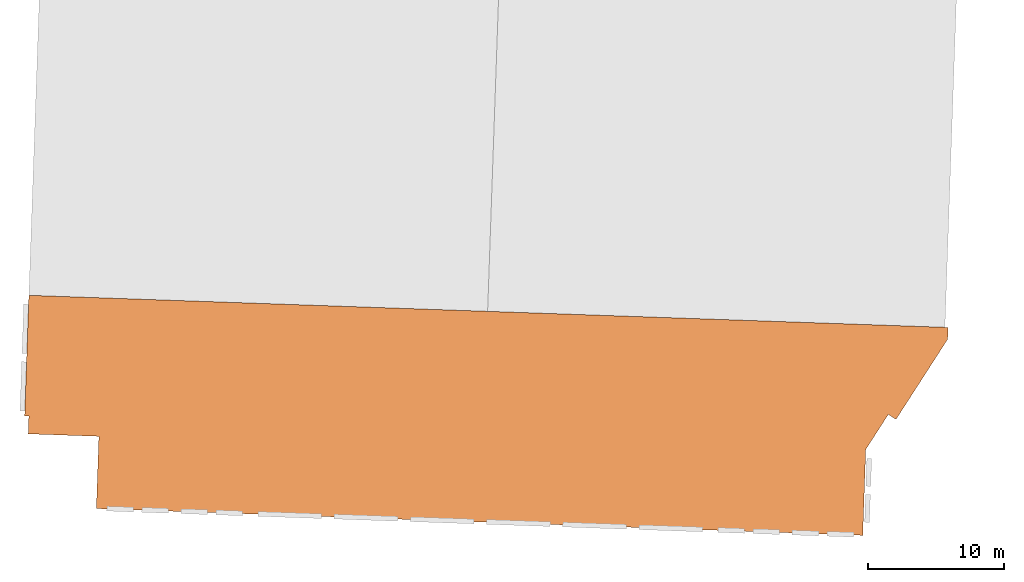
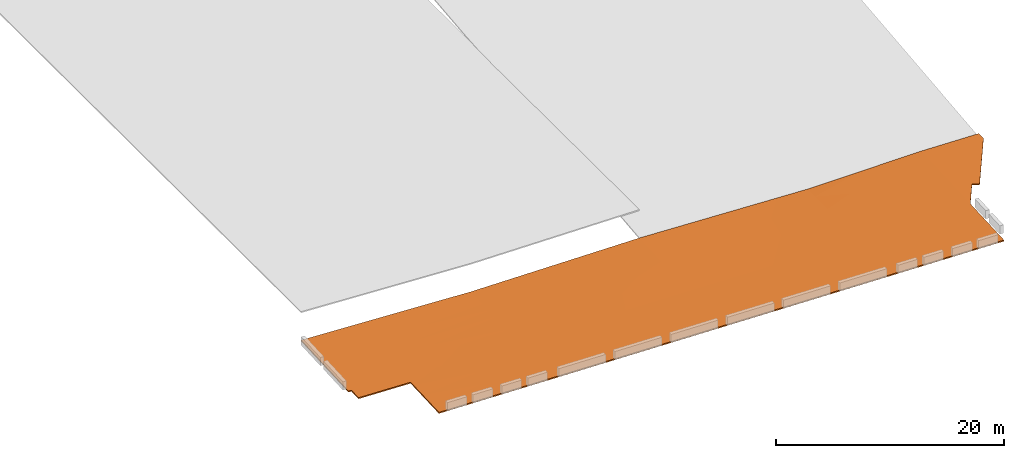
# One storey, part 3 of 4: 1 proxy.
"""IFC2X3 building model written with IfcOpenShell, lengths in feet."""

from ifc_helpers import new_model, entity, si_unit, converted_unit, derived_unit, direction, frame, origin, place, context, subcontext, project, spatial, faceted_brep, source, transform, mapped, material, type_object, type_shapes, element, save


model = new_model("IFC2X3")

# Units and contexts
model_context = context("Model", 3, precision=0.0001, world=origin(), true_north=direction((0.999390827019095, 0.0348994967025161)))
body_context = subcontext(model_context, "Body", "Model", "MODEL_VIEW")
ifc_project = project(units=[converted_unit("LENGTHUNIT", "FOOT", entity("IfcRatioMeasure", 0.3048), si_unit("LENGTHUNIT", "METRE"), dimensions=[1, 0, 0, 0, 0, 0, 0]), converted_unit("AREAUNIT", "SQUARE FOOT", entity("IfcRatioMeasure", 0.09290304), si_unit("AREAUNIT", "SQUARE_METRE"), dimensions=[2, 0, 0, 0, 0, 0, 0]), converted_unit("VOLUMEUNIT", "CUBIC FOOT", entity("IfcRatioMeasure", 0.028316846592), si_unit("VOLUMEUNIT", "CUBIC_METRE"), dimensions=[3, 0, 0, 0, 0, 0, 0]), converted_unit("PLANEANGLEUNIT", "DEGREE", entity("IfcRatioMeasure", 0.0174532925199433), si_unit("PLANEANGLEUNIT", "RADIAN"), dimensions=[0, 0, 0, 0, 0, 0, 0]), si_unit("MASSUNIT", "GRAM", prefix="KILO"), si_unit("TIMEUNIT", "SECOND"), si_unit("FREQUENCYUNIT", "HERTZ"), si_unit("THERMODYNAMICTEMPERATUREUNIT", "DEGREE_CELSIUS"), derived_unit("THERMALTRANSMITTANCEUNIT", [(si_unit("MASSUNIT", "GRAM", prefix="KILO"), 1), (si_unit("THERMODYNAMICTEMPERATUREUNIT", "KELVIN"), -1), (si_unit("TIMEUNIT", "SECOND"), -3)]), derived_unit("VOLUMETRICFLOWRATEUNIT", [(si_unit("LENGTHUNIT", "METRE"), 3), (si_unit("TIMEUNIT", "SECOND"), -1)]), si_unit("ELECTRICCURRENTUNIT", "AMPERE"), si_unit("ELECTRICVOLTAGEUNIT", "VOLT"), si_unit("POWERUNIT", "WATT"), si_unit("FORCEUNIT", "NEWTON"), si_unit("ILLUMINANCEUNIT", "LUX"), si_unit("LUMINOUSFLUXUNIT", "LUMEN"), si_unit("LUMINOUSINTENSITYUNIT", "CANDELA"), derived_unit("USERDEFINED", [(si_unit("MASSUNIT", "GRAM", prefix="KILO"), -1), (si_unit("LENGTHUNIT", "METRE"), -2), (si_unit("TIMEUNIT", "SECOND"), 3), (si_unit("LUMINOUSFLUXUNIT", "LUMEN"), 1)]), derived_unit("LINEARVELOCITYUNIT", [(si_unit("LENGTHUNIT", "METRE"), 1), (si_unit("TIMEUNIT", "SECOND"), -1)]), si_unit("PRESSUREUNIT", "PASCAL"), derived_unit("USERDEFINED", [(si_unit("LENGTHUNIT", "METRE"), -2), (si_unit("MASSUNIT", "GRAM", prefix="KILO"), 1), (si_unit("TIMEUNIT", "SECOND"), -2)])], contexts=[model_context])

# Site, building, storey
site_placement = place(None, frame((892.518771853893, 322.38689265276, 0.00393700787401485), z_axis=(0.0, 0.0, 1.0), x_axis=(0.0348994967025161, 0.999390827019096, 0.0)))
site = spatial("IfcSite", under=ifc_project, at=site_placement, Name="Default", CompositionType="ELEMENT")
building_placement = place(site_placement, origin())
building = spatial("IfcBuilding", under=site, at=building_placement, CompositionType="ELEMENT")
storey_placement = place(building_placement, frame((0.0, 0.0, 577.0)))
storey = spatial("IfcBuildingStorey", under=building, at=storey_placement, Name="Existing Garage - 3rd Level", CompositionType="ELEMENT", Elevation=577.0)

# Proxy
ifc_material = material(Name="Conc Slab")
building_element_proxy_type = type_object("IfcBuildingElementProxyType", Name="URMC Exist Garage A1-G4 1st Floor", PredefinedType="NOTDEFINED", material=ifc_material)
shared_shape = source(origin(), body_context, "Body", "Brep", [
    faceted_brep([(-20.0, -55.0, -0.41666666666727), (-10.0, -55.0, -0.651666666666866), (-5.0, -55.0, -0.769166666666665), (0.0, -55.0, -0.886666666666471), (7.5000000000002, -55.0, -1.06166666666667), (15.0, -55.0, -1.23666666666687), (22.1905010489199, -55.0, -1.40444502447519), (26.09525052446, -55.0, -1.49555584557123), (30.0, -55.0, -1.58666666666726), (30.0, -55.0, -1.1700000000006), (22.8094989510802, -55.0, -1.00222164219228), (18.9047494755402, -55.0, -0.911110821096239), (15.0, -55.0, -0.8200000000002), (7.5000000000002, -55.0, -0.645000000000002), (0.0, -55.0, -0.469999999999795), (-10.0, -55.0, -0.235000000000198), (-13.9877755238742, -55.0, -0.141287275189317), (-20.0, -55.0, 0.0), (-20.6666666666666, -55.0, 0.0), (-20.6666666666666, -55.0, -0.416666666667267), (30.0, 0.333333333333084, -0.416666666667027), (22.8094991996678, 0.333333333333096, -0.416666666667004), (18.904749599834, 0.333333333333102, -0.416666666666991), (15.0, 0.333333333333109, -0.416666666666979), (8.80986514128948, 0.333333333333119, -0.416666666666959), (4.90493257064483, 0.333333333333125, -0.416666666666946), (1.0, 0.333333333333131, -0.416666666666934), (1.0, 0.333333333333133, 0.0), (4.90493259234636, 0.333333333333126, 0.0), (8.80986518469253, 0.33333333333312, 0.0), (15.0, 0.33333333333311, 0.0), (22.1905008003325, 0.333333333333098, 0.0), (26.0952504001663, 0.333333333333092, 0.0), (30.0, 0.333333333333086, 0.0), (-20.6666666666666, -17.6666666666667, 0.0), (-20.6666666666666, -17.6666666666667, -0.416666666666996), (-20.0, -17.6666666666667, -0.416666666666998), (-20.0, -34.3004878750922, -0.416666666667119), (-12.5740740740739, -17.6666666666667, -0.473434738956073), (-10.7175925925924, -17.6666666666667, -0.487626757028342), (-8.86111111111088, -17.6666666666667, -0.501818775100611), (-11.6458347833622, -36.5226943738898, -0.547431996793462), (-16.2870370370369, -17.6666666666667, -0.445050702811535), (-14.4305555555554, -17.6666666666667, -0.459242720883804), (-3.29166666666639, -17.6666666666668, -0.544394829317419), (0.0, -14.250000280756, -0.540537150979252), (0.0, -15.0715290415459, -0.547515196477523), (0.0, -27.8333333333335, -0.6559136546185), (-3.29166666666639, -13.888888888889, -0.517587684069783), (-3.29166666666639, -12.0, -0.504184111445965), (-3.29166666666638, -10.1111111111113, -0.490780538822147), (-3.29166666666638, -8.22222222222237, -0.477376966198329), (-3.29166666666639, -15.7777777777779, -0.530991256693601), (-5.14814814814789, -17.6666666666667, -0.530202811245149), (-5.59903228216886, -34.4748037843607, -0.629555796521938), (-7.00462962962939, -17.6666666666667, -0.51601079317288), (-18.1435185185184, -17.6666666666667, -0.430858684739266), (0.0, -29.476391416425, -0.669869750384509), (-3.29166666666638, -4.44444444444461, -0.450569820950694), (-3.29166666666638, -2.55555555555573, -0.437166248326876), (-3.29166666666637, -0.666666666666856, -0.423762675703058), (-2.92592592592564, -0.666666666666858, -0.423918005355), (-2.56018518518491, -0.666666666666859, -0.424073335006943), (-2.19444444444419, -0.66666666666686, -0.424228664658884), (-1.82870370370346, -0.666666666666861, -0.424383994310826), (-1.46296296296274, -0.666666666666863, -0.424539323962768), (-1.09722222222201, -0.666666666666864, -0.42469465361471), (-0.731481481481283, -0.666666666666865, -0.424849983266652), (-3.29166666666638, -6.33333333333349, -0.463973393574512), (-0.365740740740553, -0.666666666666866, -0.425005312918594), (0.0, -0.666666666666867, -0.425160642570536), (-0.365740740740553, -0.666666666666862, -0.00833864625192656), (-0.731481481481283, -0.666666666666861, -0.00818331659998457), (0.0, -14.2500000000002, -0.12387048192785), (0.0, -0.666666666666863, -0.00849397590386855), (-3.29166666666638, -8.22222222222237, -0.0607102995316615), (-3.29166666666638, -6.33333333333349, -0.0473067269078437), (-1.09722222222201, -0.66666666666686, -0.00802798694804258), (-1.46296296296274, -0.666666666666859, -0.00787265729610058), (-1.82870370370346, -0.666666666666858, -0.0077173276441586), (-2.19444444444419, -0.666666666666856, -0.00756199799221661), (-2.56018518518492, -0.666666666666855, -0.00740666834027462), (-2.92592592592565, -0.666666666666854, -0.00725133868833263), (-3.29166666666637, -0.666666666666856, -0.00709600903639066), (-3.29166666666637, -2.55555555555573, -0.0204995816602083), (-3.29166666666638, -4.44444444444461, -0.033903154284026), (-13.9378433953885, -34.3833515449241, -0.0893812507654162), (-20.0, -34.3004875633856, 0.0), (-12.5740740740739, -17.6666666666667, -0.0567680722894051), (-14.4305555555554, -17.6666666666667, -0.042576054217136), (-16.2870370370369, -17.6666666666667, -0.0283840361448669), (-10.7175925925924, -17.6666666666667, -0.0709600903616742), (-3.29166666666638, -10.1111111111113, -0.0741138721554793), (-3.29166666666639, -12.0, -0.0875174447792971), (-3.29166666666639, -13.888888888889, -0.100921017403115), (-3.29166666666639, -15.7777777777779, -0.114324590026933), (-3.2916666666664, -17.6666666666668, -0.127728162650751), (-7.93286850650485, -36.6830543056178, -0.189705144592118), (0.0, -29.4763908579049, -0.253203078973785), (0.0, -27.8333333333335, -0.239246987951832), (-5.14814814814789, -17.6666666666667, -0.113536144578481), (0.0, -15.0715287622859, -0.130848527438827), (-7.00462962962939, -17.6666666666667, -0.0993441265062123), (-8.86111111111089, -17.6666666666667, -0.0851521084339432), (-18.1435185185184, -17.6666666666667, -0.0141920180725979), (-20.0, -17.6666666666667, 0.0), (0.250000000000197, -0.666666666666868, -0.00859939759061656), (0.500000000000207, -0.666666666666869, -0.0087048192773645), (0.750000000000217, -0.66666666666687, -0.00881024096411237), (1.0, -0.66666666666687, -0.00891566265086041), (1.0, -0.66666666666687, -0.425582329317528), (0.750000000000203, -0.66666666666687, -0.42547690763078), (0.500000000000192, -0.666666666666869, -0.425371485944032), (0.250000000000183, -0.666666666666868, -0.425266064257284), (1.0, -0.166666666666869, -0.421124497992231), (1.0, -0.41666666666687, -0.42335341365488), (1.0, -0.416666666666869, -0.00668674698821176), (1.0, -0.166666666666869, -0.0044578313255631), (1.0, 0.0833333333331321, -0.00222891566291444), (1.0, 0.0833333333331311, -0.418895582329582), (11.1962408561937, -15.6577053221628, -0.627992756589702), (10.7739407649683, -31.7992304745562, -0.83558545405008), (15.0, -27.3333333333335, -0.826666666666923), (15.0, -40.5958125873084, -1.02320702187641), (6.85739956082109, -24.4344512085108, -0.698664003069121), (7.21404979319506, -39.7071127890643, -0.878575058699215), (15.0, -26.1916251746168, -0.809747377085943), (20.251104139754, -19.1054514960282, -0.747779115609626), (25.1652703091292, -15.8962002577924, -0.726745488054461), (30.0, -14.0708535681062, -0.721237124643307), (30.0, -28.4750404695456, -1.02580758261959), (24.1428761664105, -33.9154324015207, -1.0562523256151), (19.0029258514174, -39.2111456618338, -1.06943757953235), (30.0, -26.1916251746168, -0.560859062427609), (30.0, -40.5958125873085, -0.865429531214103), (24.7488958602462, -19.1054514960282, -0.367981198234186), (19.834729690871, -15.8962002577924, -0.273597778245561), (15.0, -14.0708535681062, -0.213459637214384), (15.0, -27.3333333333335, -0.410000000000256), (15.0, -28.4750404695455, -0.426919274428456), (20.8571238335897, -33.9154324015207, -0.592132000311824), (25.9970741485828, -39.2111456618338, -0.769401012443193), (7.21404852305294, -39.7071122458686, -0.461908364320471), (6.85739830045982, -24.4344495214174, -0.281997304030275), (11.1962404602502, -15.6577081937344, -0.211326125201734), (10.773940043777, -31.7992331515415, -0.418918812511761)], [[[0, 1, 2, 3, 4, 5, 6, 7, 8, 9, 10, 11, 12, 13, 14, 15, 16, 17, 18, 19]], [[20, 21, 22, 23, 24, 25, 26, 27, 28, 29, 30, 31, 32, 33]], [[18, 34, 35, 19]], [[19, 35, 36, 37, 0]], [[38, 39, 40, 41, 42, 43]], [[44, 45, 46, 47]], [[48, 49, 50, 51, 45, 44, 52]], [[53, 44, 54, 40, 55]], [[0, 37, 41]], [[37, 36, 56, 42]], [[41, 54, 1]], [[1, 54, 3, 2]], [[54, 47, 57, 3]], [[41, 37, 42]], [[0, 41, 1]], [[40, 54, 41]], [[44, 47, 54]], [[58, 59, 60, 61, 62, 63, 64, 65, 66, 67, 51, 68]], [[69, 70, 45, 67]], [[67, 45, 51]], [[71, 72, 73, 74]], [[75, 73, 72]], [[76, 75, 72, 77, 78, 79, 80, 81, 82, 83, 84, 85]], [[16, 86, 87]], [[88, 89, 90, 86, 91]], [[92, 93, 94, 95, 96, 73, 75]], [[97, 14, 98, 99]], [[86, 90, 87]], [[100, 99, 101, 73, 96]], [[100, 102, 103, 91, 97]], [[100, 97, 99]], [[86, 97, 91]], [[104, 105, 87, 90]], [[87, 17, 16]], [[86, 15, 97]], [[15, 86, 16]], [[14, 97, 15]], [[18, 17, 87, 105, 34]], [[93, 92, 75, 76, 85, 84, 83, 60, 59, 58, 68, 51, 50, 49, 48, 52, 44, 96, 95, 94]], [[62, 61, 60, 83, 82, 81, 80, 79, 78, 77, 72, 71, 74, 106, 107, 108, 109, 110, 111, 112, 113, 70, 69, 67, 66, 65, 64, 63]], [[114, 115, 110, 109, 116, 117, 118, 27, 26, 119]], [[36, 35, 34, 105, 104, 90, 89, 88, 91, 103, 102, 100, 96, 44, 53, 55, 40, 39, 38, 43, 42, 56]], [[23, 120, 24]], [[121, 122, 123, 5]], [[4, 121, 5]], [[110, 46, 45, 70, 113, 112, 111]], [[24, 120, 124]], [[110, 25, 46]], [[124, 46, 25]], [[125, 124, 121]], [[120, 23, 126, 122]], [[119, 26, 25, 110, 115, 114]], [[124, 25, 24]], [[57, 124, 125]], [[124, 57, 47, 46]], [[125, 3, 57]], [[121, 120, 122]], [[121, 124, 120]], [[121, 4, 125]], [[125, 4, 3]], [[127, 23, 22, 21]], [[128, 20, 129, 130]], [[6, 131, 7]], [[6, 132, 131]], [[132, 5, 123, 122, 126]], [[127, 128, 131]], [[130, 7, 131]], [[130, 8, 7]], [[131, 132, 127]], [[5, 132, 6]], [[127, 132, 126]], [[128, 127, 21]], [[20, 128, 21]], [[130, 131, 128]], [[23, 127, 126]], [[9, 8, 130, 129, 20, 33, 133, 134]], [[135, 33, 32, 31]], [[136, 30, 137, 138, 139]], [[10, 140, 11]], [[10, 141, 140]], [[141, 9, 134, 133]], [[135, 136, 140]], [[139, 11, 140]], [[139, 12, 11]], [[140, 141, 135]], [[9, 141, 10]], [[135, 141, 133]], [[136, 135, 31]], [[30, 136, 31]], [[139, 140, 136]], [[33, 135, 133]], [[142, 98, 14]], [[108, 107, 106, 74, 73, 101, 109]], [[143, 28, 101]], [[138, 144, 145]], [[117, 116, 109, 28, 27, 118]], [[29, 28, 143]], [[12, 145, 13]], [[145, 144, 143]], [[144, 138, 137, 30]], [[142, 14, 13]], [[144, 29, 143]], [[109, 101, 28]], [[143, 101, 99, 98]], [[145, 12, 139, 138]], [[143, 142, 145]], [[29, 144, 30]], [[98, 142, 143]], [[13, 145, 142]]]),
    faceted_brep([(30.0, -202.0, 0.0), (0.0, -202.0, 0.0), (8.58968833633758, -207.120278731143, 0.0), (7.46506598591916, -209.006925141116, 0.0), (27.1650390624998, -220.75, 0.0), (30.0, -220.75, 0.0), (30.0, -202.0, -0.416666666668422), (30.0, -220.75, -0.416666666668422), (27.1650390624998, -220.75, -0.416666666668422), (7.46506598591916, -209.006925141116, -0.416666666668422), (8.58968833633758, -207.120278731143, -0.416666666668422), (0.0, -202.0, -0.416666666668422)], [[[0, 1, 2, 3, 4, 5]], [[6, 7, 8, 9, 10, 11]], [[1, 0, 6, 11]], [[2, 1, 11, 10]], [[3, 2, 10, 9]], [[4, 3, 9, 8]], [[5, 4, 8, 7]], [[0, 5, 7, 6]]]),
    faceted_brep([(-20.6666666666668, -165.0, 0.0), (-20.0, -165.0, 0.0), (-13.6761632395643, -165.0, -0.148610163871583), (-7.35232647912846, -165.0, -0.297220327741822), (0.0, -165.0, -0.47000000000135), (9.0037052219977, -165.0, -0.680086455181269), (18.0074104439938, -165.0, -0.890172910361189), (25.4981473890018, -165.0, -1.06495677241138), (30.0, -165.0, -1.17000000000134), (30.0, -165.0, -1.58666666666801), (20.9962947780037, -165.0, -1.37658021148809), (11.9925895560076, -165.0, -1.16649375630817), (4.50185261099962, -165.0, -0.991709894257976), (0.0, -165.0, -0.886666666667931), (-6.32383676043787, -165.0, -0.738056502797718), (-12.6476735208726, -165.0, -0.589446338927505), (-20.0, -165.0, -0.416666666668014), (-20.6666666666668, -165.0, -0.416666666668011), (-20.6666666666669, -202.0, -0.41666666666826), (-20.0, -202.0, -0.416666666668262), (-12.6476733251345, -202.0, -0.416666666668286), (-6.32383666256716, -202.0, -0.416666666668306), (0.0, -202.0, -0.416666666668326), (9.00370527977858, -202.0, -0.416666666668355), (15.0, -202.0, -0.416666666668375), (20.9962947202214, -202.0, -0.416666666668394), (30.0, -202.0, -0.416666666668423), (30.0, -202.0, 0.0), (20.9962947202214, -202.0, 0.0), (15.0, -202.0, 0.0), (9.00370527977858, -202.0, 0.0), (0.0, -202.0, 0.0), (-7.35232667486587, -202.0, 0.0), (-13.676163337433, -202.0, 0.0), (-20.0, -202.0, 0.0), (-20.6666666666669, -202.0, 0.0), (-20.0, -183.5, 0.0), (0.0, -188.398195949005, -0.172779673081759), (-9.99999899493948, -183.499998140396, -0.117500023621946), (0.0, -178.601803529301, -0.297220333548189), (0.0, -183.5, -0.235000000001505), (0.0, -174.25, -0.352500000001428), (0.0, -181.656853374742, -0.675079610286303), (0.0, -183.5, -0.651666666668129), (-20.0, -178.601804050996, -0.416666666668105), (-20.0, -188.398195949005, -0.416666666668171), (-10.0000010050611, -183.499998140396, -0.53416666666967), (0.0, -191.828426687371, -0.545873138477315), (17.9981488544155, -183.915731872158, -0.434978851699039), (21.7527798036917, -174.464150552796, -0.727515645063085), (16.3929501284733, -174.455166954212, -0.634649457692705), (5.45135066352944, -176.072640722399, -0.41848031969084), (24.1185436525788, -184.958768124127, -0.47566500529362), (30.0, -181.656853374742, -0.643283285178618), (10.9233067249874, -174.475221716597, -0.539245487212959), (30.0, -191.828426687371, -0.321641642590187), (8.99746617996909, -183.946109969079, -0.331772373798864), (30.0, -183.5, -1.00166666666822), (30.0, -174.25, -1.29416666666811), (12.0018511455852, -183.915731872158, -0.783260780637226), (8.24722019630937, -174.464150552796, -0.909658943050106), (13.6070498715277, -174.455166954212, -1.0029233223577), (24.5486493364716, -176.072640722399, -1.14739902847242), (5.88145634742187, -184.958768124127, -0.696342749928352), (19.0766932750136, -174.475221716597, -1.09743837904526), (21.0025338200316, -183.946109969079, -0.885120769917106)], [[[0, 1, 2, 3, 4, 5, 6, 7, 8, 9, 10, 11, 12, 13, 14, 15, 16, 17]], [[18, 19, 20, 21, 22, 23, 24, 25, 26, 27, 28, 29, 30, 31, 32, 33, 34, 35]], [[2, 1, 36]], [[32, 31, 37]], [[38, 39, 3]], [[38, 32, 37]], [[38, 37, 40, 39]], [[36, 33, 38]], [[3, 39, 41, 4]], [[2, 36, 38]], [[38, 3, 2]], [[38, 33, 32]], [[36, 1, 0, 35, 34, 33]], [[14, 13, 42, 43]], [[20, 19, 18, 17, 16, 44, 45]], [[46, 44, 15]], [[46, 20, 45]], [[44, 46, 45]], [[43, 21, 46]], [[44, 16, 15]], [[14, 43, 46]], [[46, 15, 14]], [[46, 21, 20]], [[21, 43, 47, 23, 22]], [[17, 18, 35, 0]], [[28, 48, 29]], [[49, 6, 50]], [[51, 4, 41, 39, 40]], [[49, 52, 53]], [[6, 49, 7]], [[54, 50, 6]], [[28, 55, 52]], [[50, 54, 48]], [[31, 30, 29, 56]], [[56, 29, 48]], [[50, 48, 49]], [[53, 8, 7]], [[52, 49, 48]], [[53, 7, 49]], [[48, 28, 52]], [[5, 54, 6]], [[55, 28, 27]], [[55, 53, 52]], [[56, 54, 51]], [[56, 40, 37, 31]], [[51, 40, 56]], [[48, 54, 56]], [[51, 5, 4]], [[5, 51, 54]], [[26, 57, 58, 9, 8, 53, 55, 27]], [[23, 59, 24]], [[60, 11, 61]], [[62, 9, 58, 57]], [[60, 63, 42]], [[11, 60, 12]], [[64, 61, 11]], [[23, 47, 63]], [[61, 64, 59]], [[26, 25, 24, 65]], [[65, 24, 59]], [[61, 59, 60]], [[42, 13, 12]], [[63, 60, 59]], [[42, 12, 60]], [[59, 23, 63]], [[10, 64, 11]], [[63, 47, 43, 42]], [[65, 64, 62]], [[26, 65, 57]], [[62, 57, 65]], [[59, 64, 65]], [[62, 10, 9]], [[10, 62, 64]]]),
    faceted_brep([(-20.6666666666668, -165.0, 0.0), (-20.6666666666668, -165.0, -0.416666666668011), (-20.0, -165.0, -0.416666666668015), (0.0, -165.0, -0.886666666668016), (15.0, -165.0, -1.23666666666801), (30.0, -165.0, -1.58666666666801), (30.0, -165.0, -1.17000000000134), (15.0, -165.0, -0.820000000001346), (0.0, -165.0, -0.470000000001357), (-20.0, -165.0, 0.0), (-20.6666666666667, -110.0, -0.416666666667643), (-20.6666666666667, -110.0, 0.0), (-20.0, -110.0, 0.0), (0.0, -110.0, -0.470000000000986), (13.3825266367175, -110.0, -0.407548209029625), (21.6912633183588, -110.0, -0.368774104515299), (30.0, -110.0, -0.330000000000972), (30.0, -110.0, -0.746666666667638), (16.6174733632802, -110.0, -0.809118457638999), (8.30873668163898, -110.0, -0.847892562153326), (0.0, -110.0, -0.886666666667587), (-20.0, -110.0, -0.416666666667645), (0.0, -120.155122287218, -0.88666666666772), (0.0, -130.310244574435, -0.886666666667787), (0.0, -144.689755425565, -0.886666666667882), (0.0, -154.844877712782, -0.886666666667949), (0.0, -151.25, -0.470000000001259), (0.0, -137.5, -0.470000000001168), (0.0, -120.1551222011, -0.470000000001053), (17.2873447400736, -147.002653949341, -1.13164646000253), (30.0, -151.25, -1.37666666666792), (30.0, -137.5, -1.16666666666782), (16.3240091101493, -128.827558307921, -0.966952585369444), (30.0, -120.1551222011, -0.901763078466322), (13.2726015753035, -119.339312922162, -0.887833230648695), (8.02165536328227, -127.260649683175, -0.919720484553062), (8.64423343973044, -137.500002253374, -0.967346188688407), (21.6843579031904, -118.27528224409, -0.876826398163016), (8.41142000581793, -148.439377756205, -1.01201761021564), (30.0, -120.155122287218, -0.485096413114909), (30.0, -130.310244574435, -0.640192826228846), (30.0, -144.689755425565, -0.859807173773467), (30.0, -154.844877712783, -1.0149035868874), (12.7126552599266, -147.002653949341, -0.650151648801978), (13.6759908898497, -128.827558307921, -0.537262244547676), (16.7273984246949, -119.339312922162, -0.471470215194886), (21.9783446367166, -127.260649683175, -0.560563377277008), (21.3557665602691, -137.500002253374, -0.669320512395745), (8.31564209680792, -118.27528224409, -0.466226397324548), (21.5885799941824, -148.439377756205, -0.791723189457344)], [[[0, 1, 2, 3, 4, 5, 6, 7, 8, 9]], [[10, 11, 12, 13, 14, 15, 16, 17, 18, 19, 20, 21]], [[0, 11, 10, 1]], [[1, 10, 21, 2]], [[2, 21, 20, 22, 23, 24, 25, 3]], [[9, 8, 26, 27, 28, 13, 12]], [[9, 12, 11, 0]], [[4, 29, 30]], [[31, 32, 33]], [[34, 35, 22]], [[30, 5, 4]], [[35, 36, 23]], [[17, 33, 37]], [[32, 34, 37]], [[32, 36, 35]], [[29, 32, 31]], [[23, 36, 24]], [[4, 25, 38]], [[36, 38, 24]], [[32, 29, 36]], [[38, 36, 29]], [[29, 4, 38]], [[22, 20, 19]], [[25, 4, 3]], [[25, 24, 38]], [[19, 18, 34]], [[35, 23, 22]], [[35, 34, 32]], [[19, 34, 22]], [[37, 34, 18]], [[17, 37, 18]], [[32, 37, 33]], [[29, 31, 30]], [[6, 5, 30, 31, 33, 17, 16, 39, 40, 41, 42]], [[7, 43, 26]], [[27, 44, 28]], [[45, 46, 39]], [[26, 8, 7]], [[46, 47, 40]], [[13, 28, 48]], [[44, 45, 48]], [[44, 47, 46]], [[43, 44, 27]], [[40, 47, 41]], [[7, 42, 49]], [[47, 49, 41]], [[44, 43, 47]], [[49, 47, 43]], [[43, 7, 49]], [[39, 16, 15]], [[42, 7, 6]], [[42, 41, 49]], [[15, 14, 45]], [[46, 40, 39]], [[46, 45, 44]], [[15, 45, 39]], [[48, 45, 14]], [[13, 48, 14]], [[44, 48, 28]], [[43, 27, 26]]]),
    faceted_brep([(-20.6666666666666, -55.0, 0.0), (-20.0, -55.0, 0.0), (0.0, -55.0, -0.469999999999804), (15.0, -55.0, -0.820000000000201), (30.0, -55.0, -1.1700000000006), (30.0, -55.0, -1.58666666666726), (15.0, -55.0, -1.23666666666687), (0.0, -55.0, -0.886666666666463), (-20.0, -55.0, -0.416666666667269), (-20.6666666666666, -55.0, -0.416666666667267), (-20.6666666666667, -110.0, -0.416666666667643), (-20.0, -110.0, -0.416666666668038), (0.0, -110.0, -0.886666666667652), (13.3825266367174, -110.0, -0.824214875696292), (21.6912633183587, -110.0, -0.785440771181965), (30.0, -110.0, -0.746666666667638), (30.0, -110.0, -0.330000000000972), (16.6174733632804, -110.0, -0.392451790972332), (8.30873668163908, -110.0, -0.431225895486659), (0.0, -110.0, -0.47000000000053), (-20.0, -110.0, 0.0), (-20.6666666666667, -110.0, 0.0), (0.0, -99.8448777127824, -0.470000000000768), (0.0, -89.6897554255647, -0.47000000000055), (0.0, -75.3102445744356, -0.47000000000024), (0.0, -65.1551222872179, -0.470000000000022), (0.0, -68.7500000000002, -0.886666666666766), (0.0, -82.5000000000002, -0.886666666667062), (0.0, -99.8448777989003, -0.886666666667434), (17.2873447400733, -72.9973460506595, -0.714979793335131), (30.0, -68.7500000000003, -0.960000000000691), (30.0, -82.5000000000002, -0.750000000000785), (16.324009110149, -91.1724416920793, -0.550285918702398), (30.0, -99.8448777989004, -0.485096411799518), (13.2726015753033, -100.660687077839, -0.471166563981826), (8.02165536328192, -92.7393503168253, -0.503053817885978), (8.64423343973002, -82.4999977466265, -0.550679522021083), (21.6843579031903, -101.72471775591, -0.460159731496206), (8.41142000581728, -71.5606222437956, -0.595350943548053), (30.0, -99.8448777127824, -0.90176307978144), (30.0, -89.6897554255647, -1.05685949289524), (30.0, -75.3102445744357, -1.27647384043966), (30.0, -65.155122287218, -1.43157025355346), (12.7126552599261, -72.9973460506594, -1.06681831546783), (13.6759908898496, -91.1724416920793, -0.95392891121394), (16.7273984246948, -100.660687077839, -0.888136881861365), (21.9783446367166, -92.7393503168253, -0.977230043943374), (21.355766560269, -82.4999977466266, -1.08598717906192), (8.3156420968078, -101.72471775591, -0.882893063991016), (21.5885799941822, -71.5606222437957, -1.20838985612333)], [[[0, 1, 2, 3, 4, 5, 6, 7, 8, 9]], [[10, 11, 12, 13, 14, 15, 16, 17, 18, 19, 20, 21]], [[0, 21, 20, 1]], [[1, 20, 19, 22, 23, 24, 25, 2]], [[8, 7, 26, 27, 28, 12, 11]], [[8, 11, 10, 9]], [[9, 10, 21, 0]], [[3, 29, 30]], [[31, 32, 33]], [[34, 35, 22]], [[30, 4, 3]], [[35, 36, 23]], [[16, 33, 37]], [[32, 34, 37]], [[32, 36, 35]], [[29, 32, 31]], [[23, 36, 24]], [[3, 25, 38]], [[36, 38, 24]], [[32, 29, 36]], [[38, 36, 29]], [[29, 3, 38]], [[22, 19, 18]], [[25, 3, 2]], [[25, 24, 38]], [[18, 17, 34]], [[35, 23, 22]], [[35, 34, 32]], [[18, 34, 22]], [[37, 34, 17]], [[16, 37, 17]], [[32, 37, 33]], [[29, 31, 30]], [[15, 39, 40, 41, 42, 5, 4, 30, 31, 33, 16]], [[6, 43, 26]], [[27, 44, 28]], [[45, 46, 39]], [[26, 7, 6]], [[46, 47, 40]], [[12, 28, 48]], [[44, 45, 48]], [[44, 47, 46]], [[43, 44, 27]], [[40, 47, 41]], [[6, 42, 49]], [[47, 49, 41]], [[44, 43, 47]], [[49, 47, 43]], [[43, 6, 49]], [[39, 15, 14]], [[42, 6, 5]], [[42, 41, 49]], [[14, 13, 45]], [[46, 40, 39]], [[46, 45, 44]], [[14, 45, 39]], [[48, 45, 13]], [[12, 48, 13]], [[44, 48, 28]], [[43, 27, 26]]]),
])
type_shapes(building_element_proxy_type, [shared_shape])
proxy_placement = place(storey_placement, frame((-170.072745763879, 456.763953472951, 0.0)))
element("IfcBuildingElementProxy", 1, at=proxy_placement, inside=storey, type_object=building_element_proxy_type, material=ifc_material, Name="URMC Exist Garage A1-G4 1st Floor:URMC Exist Garage A1-G4 1st Floor", ObjectType="URMC Exist Garage A1-G4 1st Floor", context=body_context, shape_type="MappedRepresentation", body=[
    mapped(shared_shape, transform((0.0, 0.0, 0.0), scale=1.0)),
])

save(model, "model.ifc")
